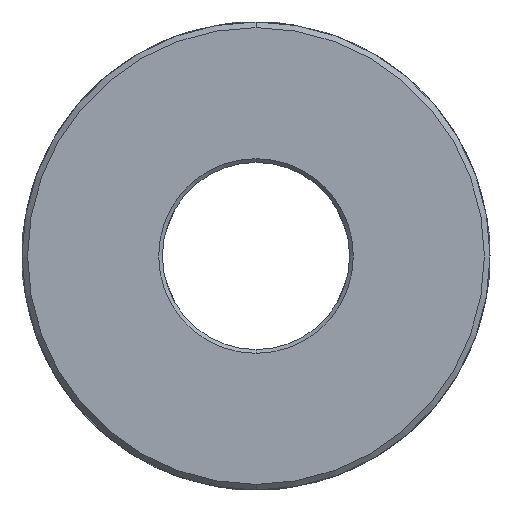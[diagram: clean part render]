
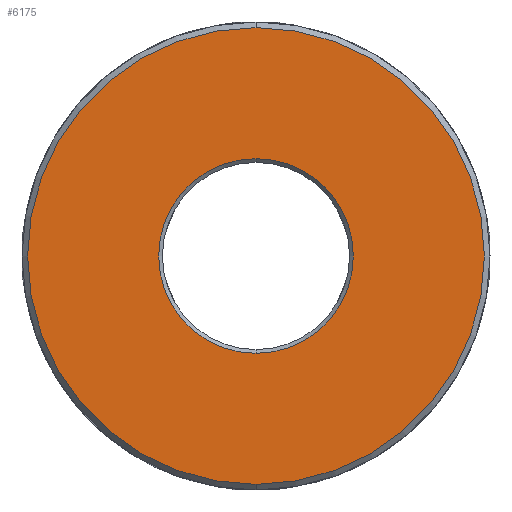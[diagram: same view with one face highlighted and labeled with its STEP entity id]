
A CAD part, front view. The second image highlights one B-rep face of the part: STEP entity #6175.
In plain terms, the highlighted planar face has unit normal (0, -1, 0).
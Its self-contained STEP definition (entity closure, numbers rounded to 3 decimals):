
#117 = FACE_BOUND ( 'NONE', #998, .T. ) ;
#206 = AXIS2_PLACEMENT_3D ( 'NONE', #4150, #1749, #5332 ) ;
#683 = ORIENTED_EDGE ( 'NONE', *, *, #5128, .T. ) ;
#998 = EDGE_LOOP ( 'NONE', ( #1099, #683 ) ) ;
#1046 = CARTESIAN_POINT ( 'NONE',  ( 0., 0., 24.4 ) ) ;
#1080 = DIRECTION ( 'NONE',  ( 0., 0., 1. ) ) ;
#1099 = ORIENTED_EDGE ( 'NONE', *, *, #6981, .T. ) ;
#1221 = AXIS2_PLACEMENT_3D ( 'NONE', #5109, #6286, #1555 ) ;
#1317 = DIRECTION ( 'NONE',  ( 0., 1., 0. ) ) ;
#1491 = CARTESIAN_POINT ( 'NONE',  ( 0., 0., 10.4 ) ) ;
#1555 = DIRECTION ( 'NONE',  ( 0., 0., 1. ) ) ;
#1749 = DIRECTION ( 'NONE',  ( 0., -1., 0. ) ) ;
#1940 = AXIS2_PLACEMENT_3D ( 'NONE', #4896, #1317, #4260 ) ;
#2036 = VERTEX_POINT ( 'NONE', #5162 ) ;
#2051 = CARTESIAN_POINT ( 'NONE',  ( 0., 0., -10.4 ) ) ;
#2602 = VERTEX_POINT ( 'NONE', #1491 ) ;
#2715 = ORIENTED_EDGE ( 'NONE', *, *, #5285, .T. ) ;
#2728 = AXIS2_PLACEMENT_3D ( 'NONE', #7574, #4623, #1080 ) ;
#2768 = EDGE_CURVE ( 'NONE', #2036, #4048, #3184, .T. ) ;
#2777 = CIRCLE ( 'NONE', #4473, 10.4 ) ;
#3131 = DIRECTION ( 'NONE',  ( 0., 1., 0. ) ) ;
#3156 = CARTESIAN_POINT ( 'NONE',  ( 0., 0., 0. ) ) ;
#3184 = CIRCLE ( 'NONE', #206, 24.4 ) ;
#3520 = CIRCLE ( 'NONE', #1940, 10.4 ) ;
#3542 = CIRCLE ( 'NONE', #2728, 24.4 ) ;
#3734 = DIRECTION ( 'NONE',  ( 0., 0., 1. ) ) ;
#3971 = VERTEX_POINT ( 'NONE', #2051 ) ;
#4048 = VERTEX_POINT ( 'NONE', #1046 ) ;
#4150 = CARTESIAN_POINT ( 'NONE',  ( 0., 0., 0. ) ) ;
#4260 = DIRECTION ( 'NONE',  ( 0., 0., 1. ) ) ;
#4473 = AXIS2_PLACEMENT_3D ( 'NONE', #3156, #3131, #3734 ) ;
#4623 = DIRECTION ( 'NONE',  ( 0., -1., 0. ) ) ;
#4896 = CARTESIAN_POINT ( 'NONE',  ( 0., 0., 0. ) ) ;
#5109 = CARTESIAN_POINT ( 'NONE',  ( -50., 0., 32.858 ) ) ;
#5128 = EDGE_CURVE ( 'NONE', #2602, #3971, #2777, .T. ) ;
#5162 = CARTESIAN_POINT ( 'NONE',  ( 0., 0., -24.4 ) ) ;
#5285 = EDGE_CURVE ( 'NONE', #4048, #2036, #3542, .T. ) ;
#5332 = DIRECTION ( 'NONE',  ( 0., 0., 1. ) ) ;
#6175 = ADVANCED_FACE ( 'NONE', ( #117, #6998 ), #6852, .F. ) ;
#6286 = DIRECTION ( 'NONE',  ( 0., 1., 0. ) ) ;
#6799 = EDGE_LOOP ( 'NONE', ( #2715, #7071 ) ) ;
#6852 = PLANE ( 'NONE',  #1221 ) ;
#6981 = EDGE_CURVE ( 'NONE', #3971, #2602, #3520, .T. ) ;
#6998 = FACE_OUTER_BOUND ( 'NONE', #6799, .T. ) ;
#7071 = ORIENTED_EDGE ( 'NONE', *, *, #2768, .T. ) ;
#7574 = CARTESIAN_POINT ( 'NONE',  ( 0., 0., 0. ) ) ;
